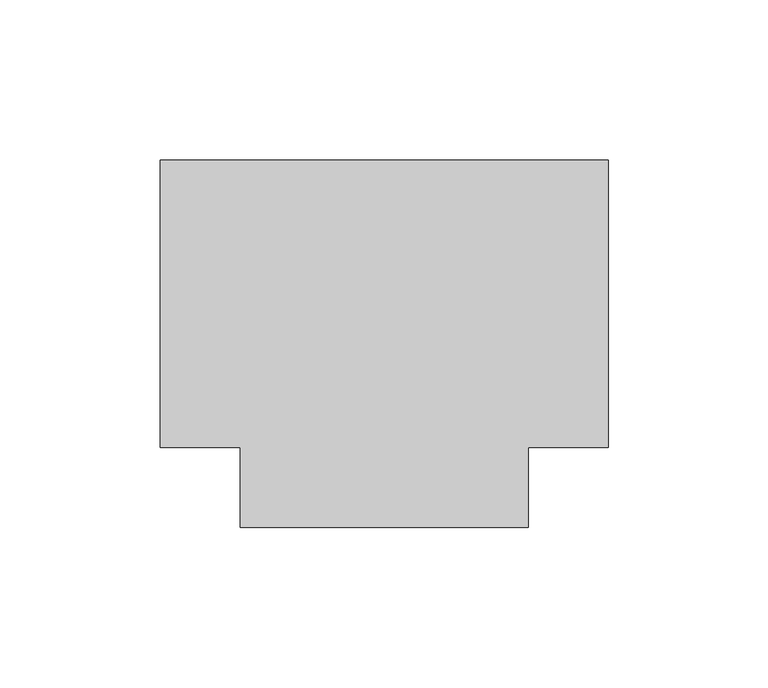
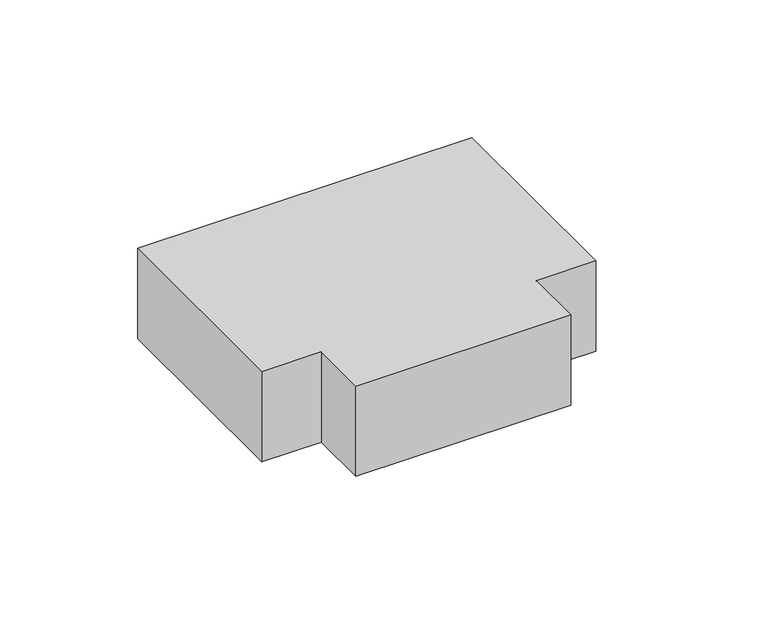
"""IFC4 building model written with IfcOpenShell, lengths in millimetres: duct fitting geometry, КНС_Тройник_DKC : Стандарт."""

from ifc_helpers import new_model, si_unit, frame, origin, place, context, project, spatial, polyline, outline, extrude, source, transform, mapped, element, save


def duct_fitting_01047fc7(model_context):
    return source(origin(), model_context, "Body", "SweptSolid", [
        extrude(outline(polyline([(-70.0, -45.0), (-70.0, 45.0), (70.0, 45.0), (70.0, -45.0), (45.0, -45.0), (45.0, -70.0), (-45.0, -70.0), (-45.0, -45.0), (-70.0, -45.0)])), frame((0.0, 0.0, -20.0), z_axis=(0.0, 0.0, 1.0), x_axis=(1.0, 0.0, 0.0)), (0.0, 0.0, 1.0), 40.0),
    ])


if __name__ == "__main__":
    model = new_model("IFC4")
    model_context = context("Model", 3, world=origin())
    ifc_project = project(units=[si_unit("LENGTHUNIT", "METRE", prefix="MILLI")], contexts=[model_context])
    site = spatial("IfcSite", under=ifc_project)
    building = spatial("IfcBuilding", under=site)
    placement = place(None, origin())
    duct_fitting_shape = duct_fitting_01047fc7(model_context)
    element("IfcDuctFitting", 1, ObjectType="КНС_Тройник_DKC : Стандарт", at=placement, inside=building, context=model_context, shape_type="MappedRepresentation", body=[
        mapped(duct_fitting_shape, transform((0.0, 0.0, 0.0), x_axis=(1.0, 0.0, 0.0), y_axis=(0.0, 1.0, 0.0), z_axis=(0.0, 0.0, 1.0))),
    ])
    save(model, "model.ifc")
